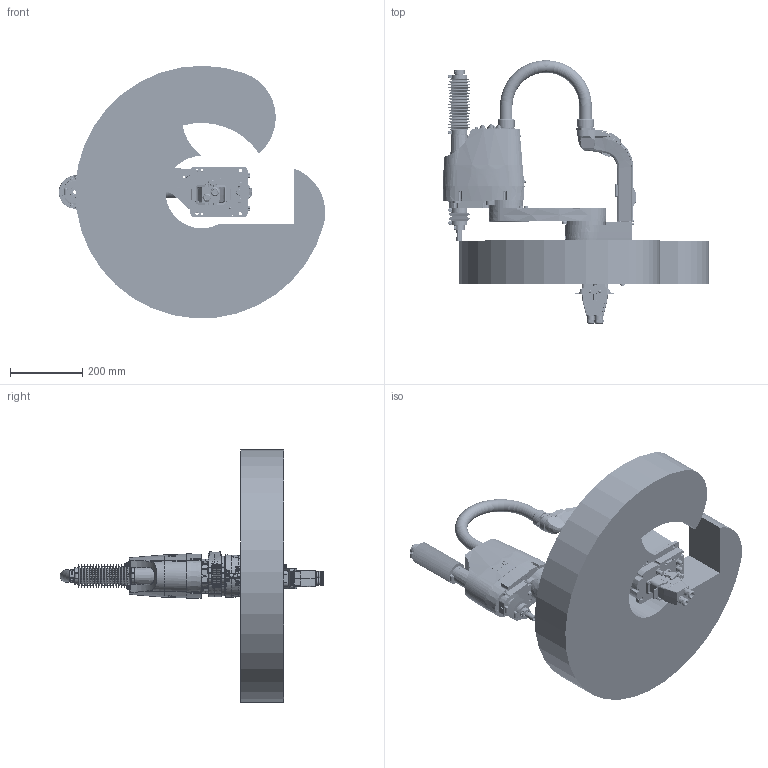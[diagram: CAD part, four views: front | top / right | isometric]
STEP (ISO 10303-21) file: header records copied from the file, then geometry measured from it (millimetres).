
FILE_DESCRIPTION( ( 'STEP AP214' ), '1' );
FILE_NAME( 'C:/Users/9607552/Desktop/GX4-A/GX4-A351CB-L-SW.stp', '2023-04-07T05:00:04', ( '' ), ( '' ), ' ', 'PARTsolutions', ' ' );
FILE_SCHEMA( ( 'AUTOMOTIVE_DESIGN { 1 0 10303 214 1 1 1 1 }' ) );
Length unit declared in the file: millimetre
Products named in the file (10): GX4-A351CB-L-SW; _A251CBbasesb; _A351S-L_J1_ARM; _A251S-a; _A351S_CONDUIT; _A251C; _A251C-long; _A251C-short; _Straight; _GX4-32_WS
Assembly tree (9 placements, depth 2):
  GX4-A351CB-L-SW
    _A251CBbasesb
    _A351S-L_J1_ARM
    _A251S-a
    _A351S_CONDUIT
    _A251C
    _A251C-long
    _A251C-short
    _Straight
    _GX4-32_WS
Bounding box: 737.83 x 730.09 x 699.31 mm (x, y, z)
Volume: 43336469 mm3; surface area: 1905177.4 mm2
Topology: 9 solids, 9 shells, 4249 faces, 10411 edges, 6759 vertices
Faces by surface type: plane 2449, cylinder 1163, cone 435, torus 115, bspline 86, sphere 1
Full cylindrical faces by diameter (mm): 1 x30, 1.13 x55, 1.18 x55, 2.459 x4, 2.5 x17, 3 x36, 3.2 x3, 3.242 x1, 3.3 x45, 3.4 x32, 3.5 x12, 4 x4, 4.5 x24, 4.8 x4, 4.917 x2, 5.34 x8, 5.4 x14, 5.5 x26, 5.6 x2, 5.68 x4, 6 x9, 6.7 x4, 6.8 x7, 6.98 x4, 7 x37, 7.1 x4, 7.8 x4, 8 x21, 8.08 x1, 8.2 x8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
Entity records: 159443 total; most frequent: CARTESIAN_POINT 30457, DIRECTION 18896, ORIENTED_EDGE 18704, EDGE_CURVE 9352, AXIS2_PLACEMENT_3D 7175, VERTEX_POINT 6646, EDGE_LOOP 5811, FACE_OUTER_BOUND 4923
